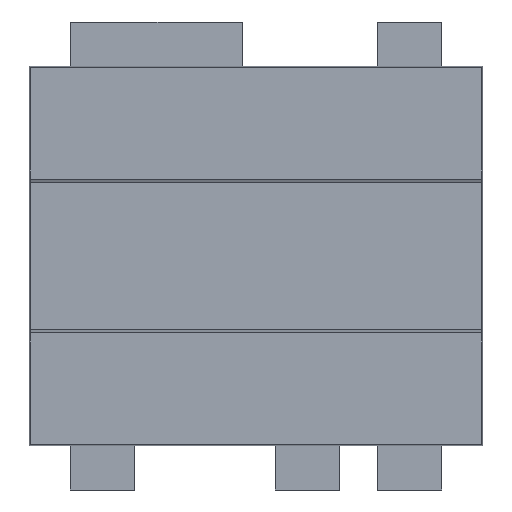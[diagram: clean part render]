
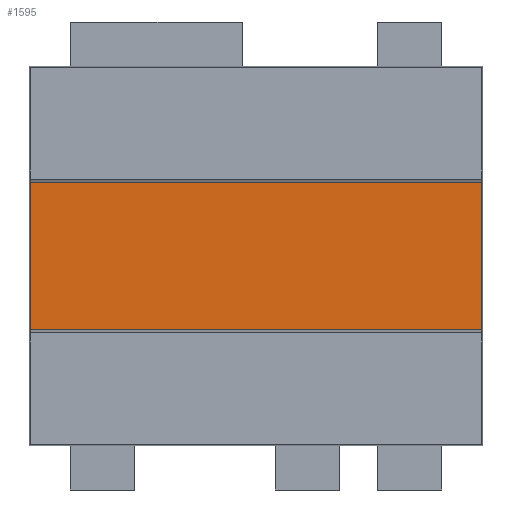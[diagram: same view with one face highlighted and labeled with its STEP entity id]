
A CAD part, front view. The second image highlights one B-rep face of the part: STEP entity #1595.
In plain terms, the highlighted planar face has unit normal (0, -1, 0).
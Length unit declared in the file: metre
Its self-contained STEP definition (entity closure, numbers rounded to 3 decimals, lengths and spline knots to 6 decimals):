
#211=ORIENTED_EDGE('',*,*,#591,.T.);
#212=ORIENTED_EDGE('',*,*,#582,.T.);
#213=ORIENTED_EDGE('',*,*,#592,.F.);
#214=ORIENTED_EDGE('',*,*,#564,.F.);
#564=EDGE_CURVE('',#769,#770,#922,.F.);
#582=EDGE_CURVE('',#777,#780,#940,.T.);
#591=EDGE_CURVE('',#769,#777,#949,.T.);
#592=EDGE_CURVE('',#770,#780,#950,.T.);
#769=VERTEX_POINT('',#2333);
#770=VERTEX_POINT('',#2335);
#777=VERTEX_POINT('',#2357);
#780=VERTEX_POINT('',#2364);
#922=LINE('',#2334,#1114);
#940=LINE('',#2365,#1132);
#949=LINE('',#2382,#1141);
#950=LINE('',#2384,#1142);
#1114=VECTOR('',#1927,1.);
#1132=VECTOR('',#1949,1.);
#1141=VECTOR('',#1966,1.);
#1142=VECTOR('',#1969,1.);
#1281=EDGE_LOOP('',(#211,#212,#213,#214));
#1399=FACE_BOUND('',#1281,.T.);
#1517=PLANE('',#1768);
#1595=ADVANCED_FACE('',(#1399),#1517,.F.);
#1768=AXIS2_PLACEMENT_3D('',#2385,#1970,#1971);
#1927=DIRECTION('',(0.,0.,1.));
#1949=DIRECTION('',(0.,0.,-1.));
#1966=DIRECTION('',(-1.,0.,0.));
#1969=DIRECTION('',(-1.,0.,0.));
#1970=DIRECTION('',(0.,1.,0.));
#1971=DIRECTION('',(0.,0.,1.));
#2333=CARTESIAN_POINT('',(0.053579,-0.0098,0.0175));
#2334=CARTESIAN_POINT('',(0.053579,-0.0098,-0.045));
#2335=CARTESIAN_POINT('',(0.053579,-0.0098,-0.0175));
#2357=CARTESIAN_POINT('',(-0.053579,-0.0098,0.0175));
#2364=CARTESIAN_POINT('',(-0.053579,-0.0098,-0.0175));
#2365=CARTESIAN_POINT('',(-0.053579,-0.0098,-0.045));
#2382=CARTESIAN_POINT('',(0.155342,-0.0098,0.0175));
#2384=CARTESIAN_POINT('',(0.155342,-0.0098,-0.0175));
#2385=CARTESIAN_POINT('',(0.155342,-0.0098,0.));
